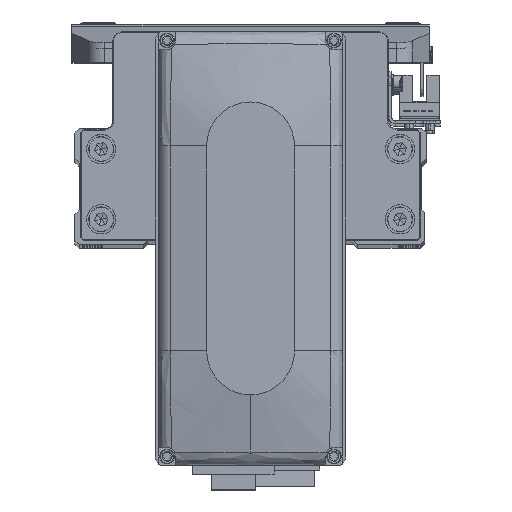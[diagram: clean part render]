
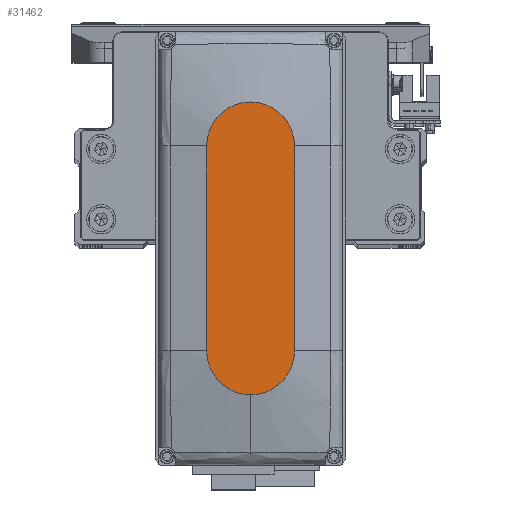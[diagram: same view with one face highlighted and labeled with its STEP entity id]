
A CAD part, top view. The second image highlights one B-rep face of the part: STEP entity #31462.
In plain terms, the highlighted planar face has unit normal (0, 0, 1).
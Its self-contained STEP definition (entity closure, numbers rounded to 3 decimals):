
#1159 = DIRECTION ( 'NONE',  ( 0., 0., 1. ) ) ;
#1999 = AXIS2_PLACEMENT_3D ( 'NONE', #16962, #31129, #45315 ) ;
#2804 = PLANE ( 'NONE',  #1999 ) ;
#3019 = CARTESIAN_POINT ( 'NONE',  ( -35., 0., 35. ) ) ;
#4951 = EDGE_CURVE ( 'NONE', #33003, #9448, #10157, .T. ) ;
#5001 = AXIS2_PLACEMENT_3D ( 'NONE', #32969, #1159, #15306 ) ;
#6717 = DIRECTION ( 'NONE',  ( 1., 0., 0. ) ) ;
#8305 = CARTESIAN_POINT ( 'NONE',  ( -35., 15., 35. ) ) ;
#8616 = DIRECTION ( 'NONE',  ( 1., 0., 0. ) ) ;
#8720 = ORIENTED_EDGE ( 'NONE', *, *, #11863, .T. ) ;
#9313 = AXIS2_PLACEMENT_3D ( 'NONE', #26296, #40471, #8616 ) ;
#9448 = VERTEX_POINT ( 'NONE', #8305 ) ;
#10157 = LINE ( 'NONE', #24344, #14966 ) ;
#11607 = CARTESIAN_POINT ( 'NONE',  ( 35., 15., 35. ) ) ;
#11863 = EDGE_CURVE ( 'NONE', #9448, #23807, #33408, .T. ) ;
#13356 = AXIS2_PLACEMENT_3D ( 'NONE', #3019, #17175, #31343 ) ;
#14966 = VECTOR ( 'NONE', #38508, 1000. ) ;
#15114 = VERTEX_POINT ( 'NONE', #37012 ) ;
#15306 = DIRECTION ( 'NONE',  ( 1., 0., 0. ) ) ;
#16819 = EDGE_CURVE ( 'NONE', #15114, #39417, #29356, .T. ) ;
#16962 = CARTESIAN_POINT ( 'NONE',  ( 0., 0., 35. ) ) ;
#17175 = DIRECTION ( 'NONE',  ( 0., 0., 1. ) ) ;
#19054 = ORIENTED_EDGE ( 'NONE', *, *, #4951, .T. ) ;
#23807 = VERTEX_POINT ( 'NONE', #43630 ) ;
#24071 = VECTOR ( 'NONE', #6717, 1000. ) ;
#24344 = CARTESIAN_POINT ( 'NONE',  ( -35., 15., 35. ) ) ;
#24376 = LINE ( 'NONE', #38546, #24071 ) ;
#25023 = CIRCLE ( 'NONE', #5001, 15. ) ;
#26296 = CARTESIAN_POINT ( 'NONE',  ( 35., 0., 35. ) ) ;
#28840 = ORIENTED_EDGE ( 'NONE', *, *, #38382, .T. ) ;
#29124 = CARTESIAN_POINT ( 'NONE',  ( 50., 0., 35. ) ) ;
#29356 = CIRCLE ( 'NONE', #9313, 15. ) ;
#31129 = DIRECTION ( 'NONE',  ( 0., 0., 1. ) ) ;
#31343 = DIRECTION ( 'NONE',  ( 1., 0., 0. ) ) ;
#31462 = ADVANCED_FACE ( 'NONE', ( #34623 ), #2804, .T. ) ;
#31711 = EDGE_CURVE ( 'NONE', #39417, #33003, #25023, .T. ) ;
#32010 = ORIENTED_EDGE ( 'NONE', *, *, #31711, .T. ) ;
#32969 = CARTESIAN_POINT ( 'NONE',  ( 35., 0., 35. ) ) ;
#33003 = VERTEX_POINT ( 'NONE', #11607 ) ;
#33408 = CIRCLE ( 'NONE', #13356, 15. ) ;
#34623 = FACE_OUTER_BOUND ( 'NONE', #36373, .T. ) ;
#36373 = EDGE_LOOP ( 'NONE', ( #19054, #8720, #28840, #41500, #32010 ) ) ;
#37012 = CARTESIAN_POINT ( 'NONE',  ( 35., -15., 35. ) ) ;
#38382 = EDGE_CURVE ( 'NONE', #23807, #15114, #24376, .T. ) ;
#38508 = DIRECTION ( 'NONE',  ( -1., 0., 0. ) ) ;
#38546 = CARTESIAN_POINT ( 'NONE',  ( -35., -15., 35. ) ) ;
#39417 = VERTEX_POINT ( 'NONE', #29124 ) ;
#40471 = DIRECTION ( 'NONE',  ( 0., 0., 1. ) ) ;
#41500 = ORIENTED_EDGE ( 'NONE', *, *, #16819, .T. ) ;
#43630 = CARTESIAN_POINT ( 'NONE',  ( -35., -15., 35. ) ) ;
#45315 = DIRECTION ( 'NONE',  ( 1., 0., 0. ) ) ;
